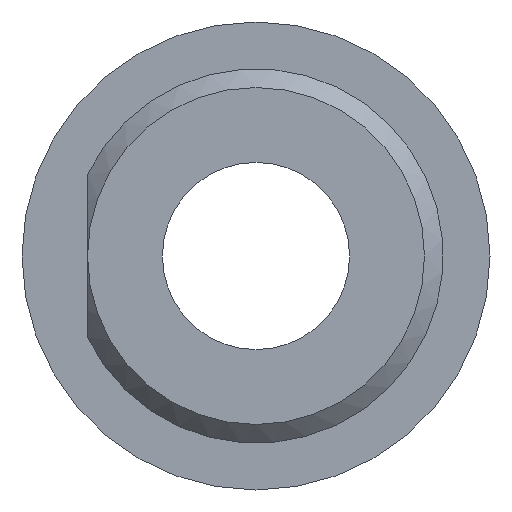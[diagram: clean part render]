
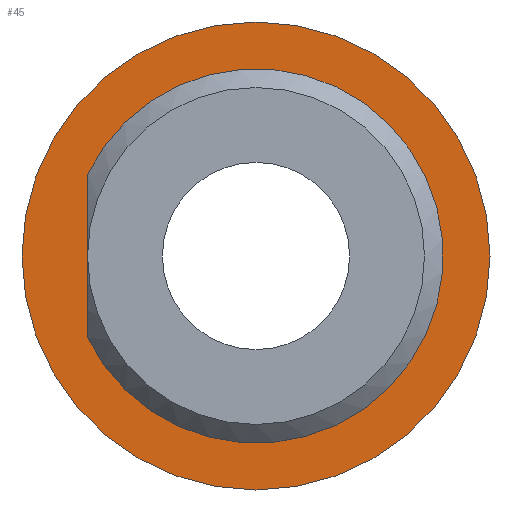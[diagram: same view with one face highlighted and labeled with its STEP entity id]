
A CAD part, left-side view. The second image highlights one B-rep face of the part: STEP entity #45.
In plain terms, the highlighted planar face has unit normal (-1, 0, 0).
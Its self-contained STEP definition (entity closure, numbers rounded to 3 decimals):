
#45 = ADVANCED_FACE( '', ( #93, #94 ), #95, .T. );
#93 = FACE_BOUND( '', #141, .T. );
#94 = FACE_OUTER_BOUND( '', #142, .T. );
#95 = PLANE( '', #143 );
#141 = EDGE_LOOP( '', ( #196, #197 ) );
#142 = EDGE_LOOP( '', ( #198 ) );
#143 = AXIS2_PLACEMENT_3D( '', #199, #200, #201 );
#196 = ORIENTED_EDGE( '', *, *, #252, .F. );
#197 = ORIENTED_EDGE( '', *, *, #253, .F. );
#198 = ORIENTED_EDGE( '', *, *, #250, .T. );
#199 = CARTESIAN_POINT( '', ( 50., 0., 10. ) );
#200 = DIRECTION( '', ( -1., 0., 0. ) );
#201 = DIRECTION( '', ( 0., 0., 1. ) );
#250 = EDGE_CURVE( '', #283, #283, #284, .T. );
#252 = EDGE_CURVE( '', #286, #287, #288, .T. );
#253 = EDGE_CURVE( '', #287, #286, #289, .T. );
#283 = VERTEX_POINT( '', #337 );
#284 = CIRCLE( '', #338, 12.5 );
#286 = VERTEX_POINT( '', #340 );
#287 = VERTEX_POINT( '', #341 );
#288 = CIRCLE( '', #342, 10. );
#289 = LINE( '', #343, #344 );
#337 = CARTESIAN_POINT( '', ( 50., 0., 12.5 ) );
#338 = AXIS2_PLACEMENT_3D( '', #376, #377, #378 );
#340 = CARTESIAN_POINT( '', ( 50., 9., -4.359 ) );
#341 = CARTESIAN_POINT( '', ( 50., 9., 4.359 ) );
#342 = AXIS2_PLACEMENT_3D( '', #379, #380, #381 );
#343 = CARTESIAN_POINT( '', ( 50., 9., 99.494 ) );
#344 = VECTOR( '', #382, 1000. );
#376 = CARTESIAN_POINT( '', ( 50., 0., 0. ) );
#377 = DIRECTION( '', ( -1., 0., 0. ) );
#378 = DIRECTION( '', ( 0., 0., 1. ) );
#379 = CARTESIAN_POINT( '', ( 50., 0., 0. ) );
#380 = DIRECTION( '', ( -1., 0., 0. ) );
#381 = DIRECTION( '', ( 0., 0., 1. ) );
#382 = DIRECTION( '', ( 0., 0., -1. ) );
